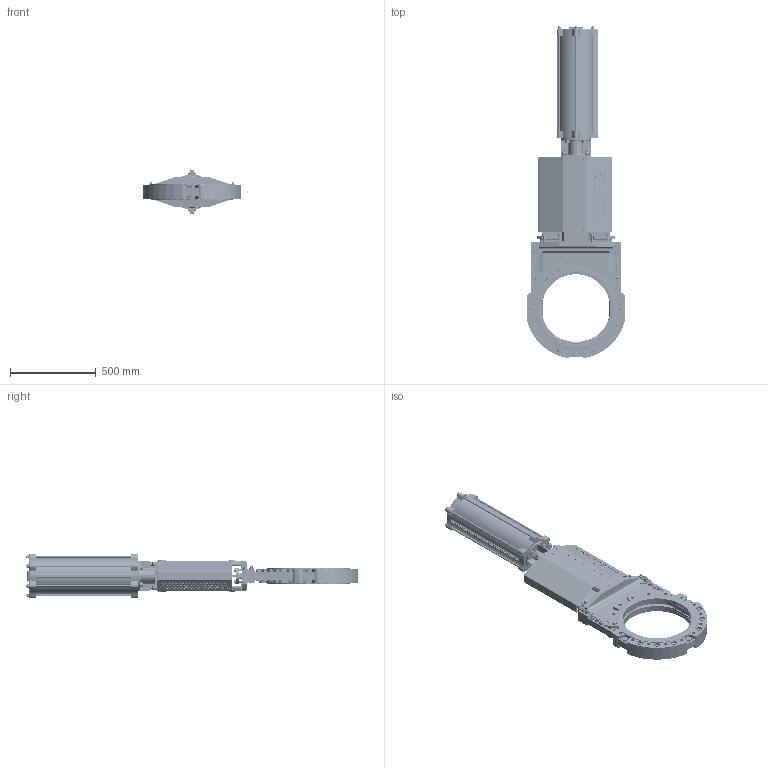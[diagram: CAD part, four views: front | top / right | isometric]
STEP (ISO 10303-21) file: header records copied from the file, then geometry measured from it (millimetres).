
FILE_DESCRIPTION(/* description */ ('','CAx-IF Rec.Pracs.---Representation and Presentation of Product Manufacturing Information (PMI)---4.0---2014-10-13'),/* implementation_level */ '2;1');
FILE_NAME(/* name */ 'F:\Emir\3D-block special\WB\WB14-DN400-FRSC200-450.stp',/* time_stamp */ '2018-09-05T14:17:20+02:00',/* author */ ('emimus'),/* organization */ (''),/* preprocessor_version */ 'ST-DEVELOPER v17.2',/* originating_system */ 'Autodesk Inventor 2019',/* authorisation */ '');
FILE_SCHEMA (('AP242_MANAGED_MODEL_BASED_3D_ENGINEERING_MIM_LF { 1 0 10303 442 1 1 4 }'));
Length unit declared in the file: metre
Products named in the file (1): WB14-DN400-FRSC200-450
Bounding box: 575.6 x 1930.3 x 256 mm (x, y, z)
Volume: 27781549.4 mm3; surface area: 5219791 mm2
Topology: 1 solids, 1 shells, 4162 faces, 10576 edges, 6689 vertices
Faces by surface type: plane 1802, cylinder 1127, cone 513, bspline 311, torus 265, sphere 144
Full cylindrical faces by diameter (mm): 3.7 x4, 4 x2, 4.2 x14, 4.3 x2, 4.5 x8, 4.917 x7, 7.5 x4, 8.376 x4, 9.5 x2, 10 x9, 10.106 x10, 12 x20, 13 x22, 13.835 x4, 16 x32, 17 x24, 17.5 x1, 18 x3, 18.631 x2, 20.752 x32, 22.49 x4, 24 x23, 25 x3, 28 x12, 30 x41, 33 x1, 33.835 x1, 36 x28, 40 x1, 40.1 x1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
Entity records: 137310 total; most frequent: CARTESIAN_POINT 38593, ORIENTED_EDGE 21072, DIRECTION 20414, EDGE_CURVE 10536, AXIS2_PLACEMENT_3D 8084, VERTEX_POINT 6689, EDGE_LOOP 4843, LINE 4246
